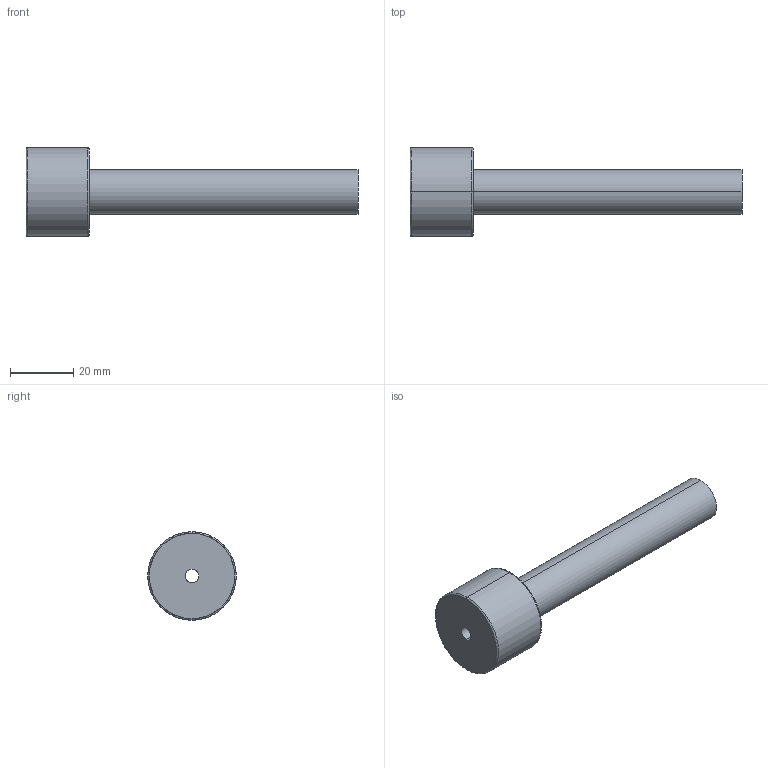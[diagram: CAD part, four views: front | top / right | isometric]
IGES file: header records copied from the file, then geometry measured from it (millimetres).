
Start section: START RECORD GO HERE.
Global section: file name: 367F-14X105.igs; native system: DASSAULT SYSTEMES CATIA V5 R20 - www.3ds.com; preprocessor: CATIA Version 5 Release 20 ; author: Utente; organization: NB04-ASUS; date: 20210324.165148; units: millimetre
Bounding box: 105 x 28 x 28 mm (x, y, z)
Surface area: 8927.6 mm2 (no closed solid volume)
Topology: 0 solids, 0 shells, 13 faces, 84 edges, 84 vertices
Faces by surface type: revolution 10, plane 3
